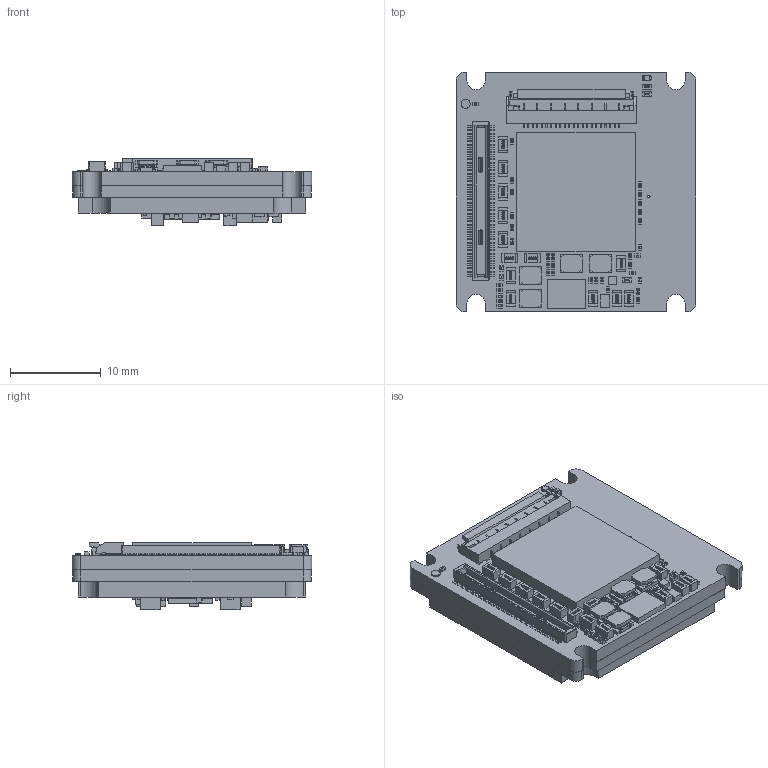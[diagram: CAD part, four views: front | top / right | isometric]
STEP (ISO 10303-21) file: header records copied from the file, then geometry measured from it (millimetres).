
FILE_DESCRIPTION (( 'STEP AP214' ), '1' );
FILE_NAME ('Alvium-CSI2-Bare-Board-P480.STEP', '2022-11-18T13:30:29', ( '' ), ( '' ), 'SwSTEP 2.0', 'SolidWorks 2021', '' );
FILE_SCHEMA (( 'AUTOMOTIVE_DESIGN' ));
Length unit declared in the file: millimetre
Products named in the file (1): Alvium-CSI2-Bare-Board-P480
Bounding box: 26.4 x 26.4 x 7.43 mm (x, y, z)
Surface area: 3350.6 mm2 (no closed solid volume)
Topology: 0 solids, 129 shells, 8048 faces, 20751 edges, 13608 vertices
Faces by surface type: plane 3993, bspline 3305, cylinder 718, torus 28, cone 4
Entity records: 518830 total; most frequent: CARTESIAN_POINT 255381, ORIENTED_EDGE 41486, DIRECTION 25041, EDGE_CURVE 20743, VERTEX_POINT 13608, LINE 12609, VECTOR 12609, EDGE_LOOP 8721
